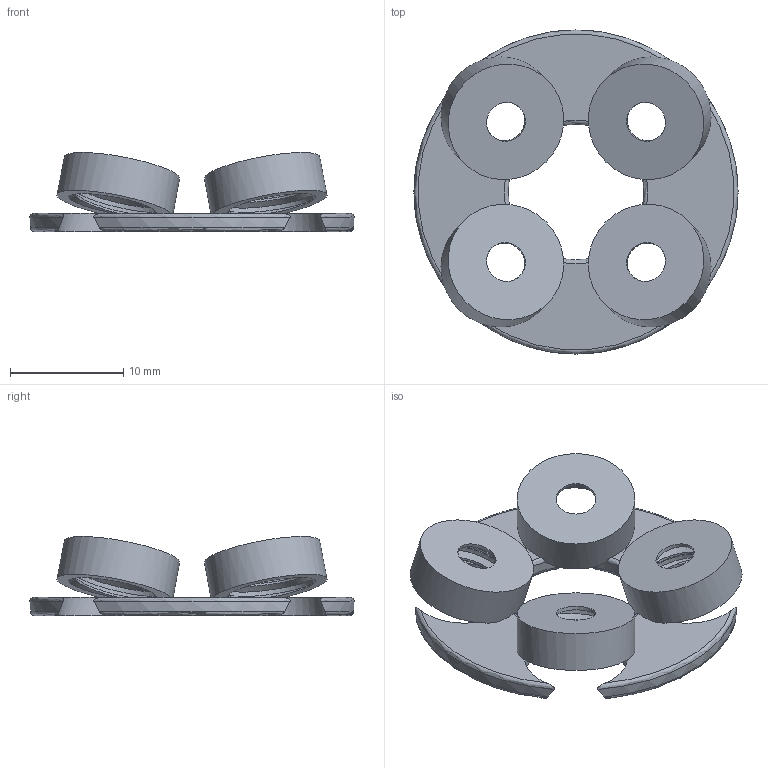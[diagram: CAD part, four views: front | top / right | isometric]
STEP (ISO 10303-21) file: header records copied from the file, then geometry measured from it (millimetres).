
FILE_DESCRIPTION(('Open CASCADE Model'),'2;1');
FILE_NAME('Open CASCADE Shape Model','2026-10-02T16:54:50',('Author'),( 'Open CASCADE'),'Open CASCADE STEP processor 7.9','Open CASCADE 7.9' ,'Unknown');
FILE_SCHEMA(('AUTOMOTIVE_DESIGN { 1 0 10303 214 1 1 1 1 }'));
Length unit declared in the file: millimetre
Products named in the file (1): Open CASCADE STEP translator 7.9 1
Bounding box: 28.67 x 28.67 x 7 mm (x, y, z)
Volume: 1012 mm3; surface area: 2243.9 mm2
Topology: 1 solids, 1 shells, 92 faces, 248 edges, 164 vertices
Faces by surface type: cylinder 40, plane 24, torus 16, bspline 12
Full cylindrical faces by diameter (mm): 3.5 x4, 5.3 x4, 7.3 x4, 10.4 x4
Entity records: 17246 total; most frequent: CARTESIAN_POINT 12847, DIRECTION 652, ORIENTED_EDGE 496, PCURVE 496, DEFINITIONAL_REPRESENTATION 496, B_SPLINE_CURVE_WITH_KNOTS 348, EDGE_CURVE 248, SURFACE_CURVE 236
